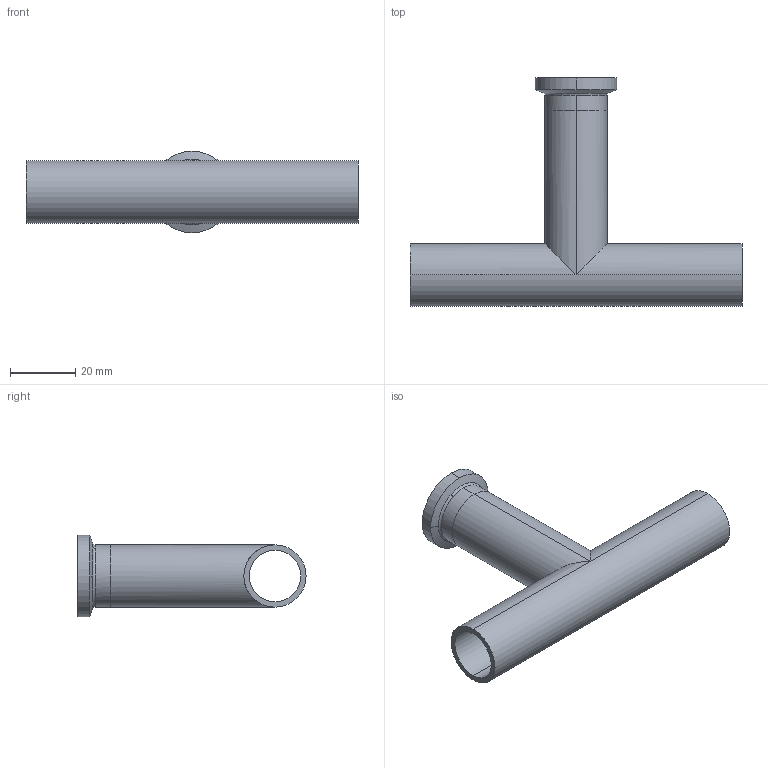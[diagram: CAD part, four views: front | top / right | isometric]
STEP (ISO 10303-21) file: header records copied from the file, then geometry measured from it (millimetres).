
FILE_DESCRIPTION (( 'STEP AP214' ), '1' );
FILE_NAME ('TE7WWC6L.75-...STEP', '2016-05-23T05:33:45', ( 'eran' ), ( '' ), 'SwSTEP 2.0', 'SolidWorks 2016', '' );
FILE_SCHEMA (( 'AUTOMOTIVE_DESIGN' ));
Length unit declared in the file: millimetre
Products named in the file (1): TE7WWC6L.75-..
Bounding box: 101.6 x 69.83 x 24.99 mm (x, y, z)
Volume: 14182.9 mm3; surface area: 17444.6 mm2
Topology: 2 solids, 2 shells, 36 faces, 88 edges, 56 vertices
Faces by surface type: cylinder 18, bspline 8, plane 6, cone 4
Entity records: 1227 total; most frequent: CARTESIAN_POINT 325, DIRECTION 194, ORIENTED_EDGE 176, EDGE_CURVE 88, AXIS2_PLACEMENT_3D 85, CIRCLE 56, VERTEX_POINT 56, EDGE_LOOP 42
